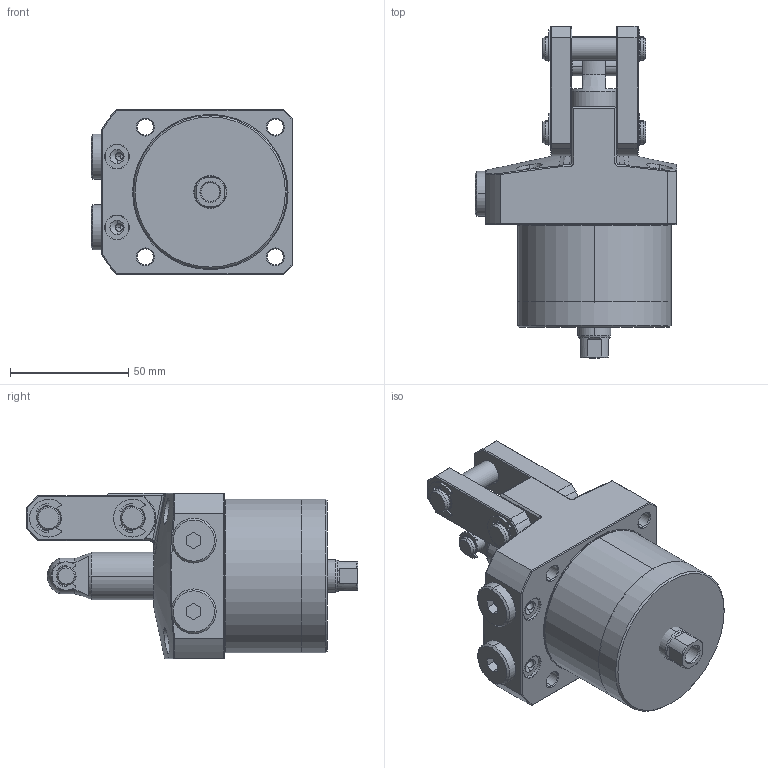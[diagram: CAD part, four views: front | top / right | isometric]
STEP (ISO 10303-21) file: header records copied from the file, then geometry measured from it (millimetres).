
FILE_DESCRIPTION(/* description */ (''),/* implementation_level */ '2;1');
FILE_NAME(/* name */ 'KTPC65-RD.stp',/* time_stamp */ '2022-11-19T08:09:33+08:00',/* author */ (''),/* organization */ (''),/* preprocessor_version */ 'ST-DEVELOPER v16.7',/* originating_system */ 'SIEMENS PLM Software NX 12.0',/* authorisation */ '');
FILE_SCHEMA (('AP203_CONFIGURATION_CONTROLLED_3D_DESIGN_OF_MECHANICAL_PARTS_AND_ASSEMBLIES_MIM_LF { 1 0 10303 403 2 1 2}'));
Length unit declared in the file: millimetre
Products named in the file (10): KTPC65-RD-07; KTPC65-RD-06; KTPC65-RD-02; KTPC65-RD-03; KTPC65-RD-08; KTPC65-RD-04; KTPC65-RD-09; KTPC65-RD-05; KTPC65-RD-01; LKA0650-CRD_step
Assembly tree (16 placements, depth 2):
  LKA0650-CRD_step
    KTPC65-RD-01
    KTPC65-RD-05
    KTPC65-RD-09  x4
    KTPC65-RD-04  x2
    KTPC65-RD-08  x2
    KTPC65-RD-03
    KTPC65-RD-02
    KTPC65-RD-06  x2
    KTPC65-RD-07  x2
Bounding box: 85.5 x 140.5 x 70 mm (x, y, z)
Volume: 441763.7 mm3; surface area: 66133.3 mm2
Topology: 16 solids, 16 shells, 593 faces, 1419 edges, 887 vertices
Faces by surface type: cylinder 244, plane 187, cone 77, torus 64, bspline 19, sphere 2
Full cylindrical faces by diameter (mm): 65 x1
Entity records: 13629 total; most frequent: CARTESIAN_POINT 3398, DIRECTION 1949, ORIENTED_EDGE 1794, EDGE_CURVE 897, AXIS2_PLACEMENT_3D 789, VERTEX_POINT 557, EDGE_LOOP 434, CIRCLE 405
